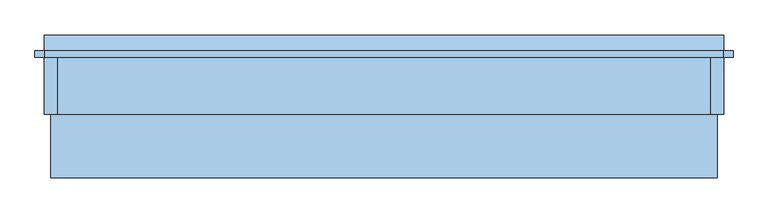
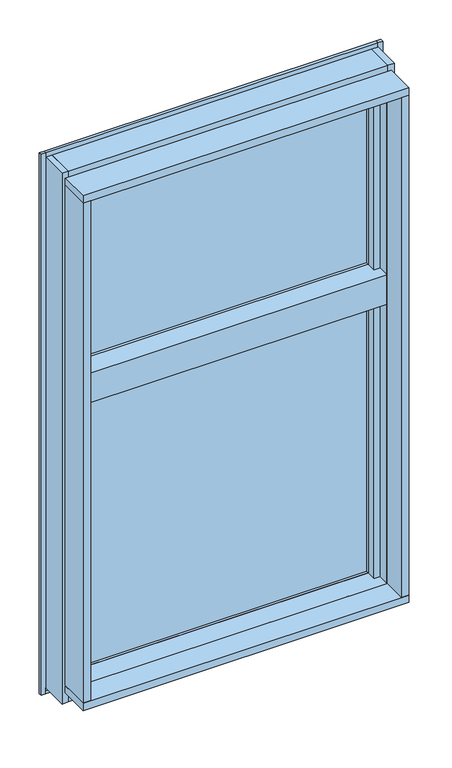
"""IFC4 building model written with IfcOpenShell, lengths in millimetres: window geometry, FNSⅡ100R_個別防火_ALC枠_段窓 : FIX/FIX 単."""

import ifcopenshell
import ifcopenshell.guid

model = None  # the IFC model being written
_history = None  # IfcOwnerHistory: only IFC2X3 demands one
_inside = {}  # id of a spatial element -> (the spatial element, [elements in it])
_under = {}  # id of a project, library or spatial element -> (it, [spatial elements below it])
_declared = {}  # id of a project -> (the project, [libraries it declares])
_typed = {}  # id of a type object -> (the type object, [elements of that type])
_made_of = {}  # id of a material, layer set ... -> (it, [elements and type objects made of it])


def new_model(schema):
    """Start an empty IFC model of exactly this schema.

    Asked for "IFC4X3", IfcOpenShell would pick the latest addendum, in which some entities
    have other attributes; the version numbers below select the first issue.
    IFC2X3 requires an IfcOwnerHistory on every rooted entity: one is made here for all.
    """
    global model, _history
    if schema == "IFC4X3":
        model = ifcopenshell.file(schema_version=(4, 3, 0, 0))
    else:
        model = ifcopenshell.file(schema=schema)
    _inside.clear()
    _under.clear()
    _declared.clear()
    _typed.clear()
    _made_of.clear()
    _history = None
    if model.schema == "IFC2X3":
        org = make("IfcOrganization", Name="unknown")
        user = make(
            "IfcPersonAndOrganization",
            ThePerson=make("IfcPerson", FamilyName="unknown"),
            TheOrganization=org,
        )
        app = make(
            "IfcApplication",
            ApplicationDeveloper=org,
            Version="unknown",
            ApplicationFullName="unknown",
            ApplicationIdentifier="unknown",
        )
        _history = make(
            "IfcOwnerHistory",
            OwningUser=user,
            OwningApplication=app,
            ChangeAction="ADDED",
            CreationDate=0,
        )
    return model


def make(cls, **values):
    """One entity of the class cls with the attributes given. An attribute that is None is left unset."""
    return model.create_entity(
        cls, **{name: value for name, value in values.items() if value is not None}
    )


def rooted(cls, **values):
    """An entity with a GlobalId (a new one), such as an element, a storey or a relation."""
    return make(cls, GlobalId=ifcopenshell.guid.new(), OwnerHistory=_history, **values)


def si_unit(unit_type, name, prefix=None):
    """IfcSIUnit, for example si_unit("LENGTHUNIT", "METRE", prefix="MILLI")."""
    return make("IfcSIUnit", UnitType=unit_type, Prefix=prefix, Name=name)


def assignment(units):
    """IfcUnitAssignment: the units of a project."""
    return None if units is None else make("IfcUnitAssignment", Units=units)


def point(xyz):
    """IfcCartesianPoint."""
    return None if xyz is None else make("IfcCartesianPoint", Coordinates=xyz)


def direction(xyz):
    """IfcDirection."""
    return None if xyz is None else make("IfcDirection", DirectionRatios=xyz)


def frame(location, z_axis=None, x_axis=None):
    """IfcAxis2Placement3D, a coordinate frame: its origin and axes. An axis left out is left unset."""
    return make(
        "IfcAxis2Placement3D",
        Location=point(location),
        Axis=direction(z_axis),
        RefDirection=direction(x_axis),
    )


def origin():
    """The frame at (0, 0, 0) with its axes left unset."""
    return frame((0.0, 0.0, 0.0))


def place(relative_to, where):
    """IfcLocalPlacement: puts the frame where relative to a parent placement (None: the world)."""
    return make(
        "IfcLocalPlacement", PlacementRelTo=relative_to, RelativePlacement=where
    )


def context(
    kind, dimensions, precision=None, world=None, true_north=None, identifier=None
):
    """IfcGeometricRepresentationContext, for example the 3D "Model" context."""
    return make(
        "IfcGeometricRepresentationContext",
        ContextIdentifier=identifier,
        ContextType=kind,
        CoordinateSpaceDimension=dimensions,
        Precision=precision,
        WorldCoordinateSystem=world,
        TrueNorth=true_north,
    )


def project(units=None, contexts=None):
    """IfcProject with its units and contexts."""
    return rooted(
        "IfcProject",
        Name="project",
        RepresentationContexts=contexts,
        UnitsInContext=assignment(units),
    )


def spatial(cls, under=None, at=None, **own):
    """A site, building, storey or space (cls), placed at a placement, below another one or the project."""
    s = rooted(cls, ObjectPlacement=at, **own)
    if under is not None:
        _under.setdefault(under.id(), (under, []))[1].append(s)
    return s


def polyline(points):
    """IfcPolyline through the points."""
    return make("IfcPolyline", Points=[point(p) for p in points])


def outline(outer, holes=None, kind="AREA"):
    """IfcArbitraryClosedProfileDef: a profile drawn as a closed curve; with holes, ...WithVoids."""
    if holes is None:
        return make("IfcArbitraryClosedProfileDef", ProfileType=kind, OuterCurve=outer)
    return make(
        "IfcArbitraryProfileDefWithVoids",
        ProfileType=kind,
        OuterCurve=outer,
        InnerCurves=holes,
    )


def extrude(swept, where, along, depth):
    """IfcExtrudedAreaSolid: the profile swept, set in the frame where, extruded along a direction by depth."""
    return make(
        "IfcExtrudedAreaSolid",
        SweptArea=swept,
        Position=where,
        ExtrudedDirection=direction(along),
        Depth=depth,
    )


def faces_of(points, faces, orient=None, outer=None):
    """IfcFace entities. A face is a list of loops; a loop is a list of indices into points, from 0.

    orient and outer hold one flag for each loop. By default every Orientation is true, the
    first loop of a face is its IfcFaceOuterBound and the others are IfcFaceBound.
    """
    made = []
    for i, loops in enumerate(faces):
        bounds = []
        for j, loop in enumerate(loops):
            is_outer = j == 0 if outer is None else outer[i][j]
            bounds.append(
                make(
                    "IfcFaceOuterBound" if is_outer else "IfcFaceBound",
                    Bound=make("IfcPolyLoop", Polygon=[points[k] for k in loop]),
                    Orientation=True if orient is None else orient[i][j],
                )
            )
        made.append(make("IfcFace", Bounds=bounds))
    return made


def faceted_brep(points, faces, orient=None, outer=None, voids=None):
    """IfcFacetedBrep: a solid bounded by flat faces; with voids (closed shells), ...WithVoids."""
    shared = [point(p) for p in points]
    hull = make("IfcClosedShell", CfsFaces=faces_of(shared, faces, orient, outer))
    if voids is None:
        return make("IfcFacetedBrep", Outer=hull)
    return make(
        "IfcFacetedBrepWithVoids",
        Outer=hull,
        Voids=[
            make(cls, CfsFaces=faces_of(shared, fs, o, b)) for cls, fs, o, b in voids
        ],
    )


def shape(context_of_items, identifier, shape_type, items):
    """IfcShapeRepresentation: the items that make up one representation, for example the "Body"."""
    return make(
        "IfcShapeRepresentation",
        ContextOfItems=context_of_items,
        RepresentationIdentifier=identifier,
        RepresentationType=shape_type,
        Items=items,
    )


def source(mapping_origin, context_of_items, identifier, shape_type, items):
    """IfcRepresentationMap: a shape defined once, which mapped items show again and again."""
    return make(
        "IfcRepresentationMap",
        MappingOrigin=mapping_origin,
        MappedRepresentation=shape(context_of_items, identifier, shape_type, items),
    )


def transform(
    local_origin,
    x_axis=None,
    y_axis=None,
    z_axis=None,
    scale=None,
    scale2=None,
    scale3=None,
    uniform=True,
):
    """IfcCartesianTransformationOperator3D, or its non-uniform kind. x_axis, y_axis, z_axis: its Axis1, 2, 3."""
    if uniform:
        return make(
            "IfcCartesianTransformationOperator3D",
            Axis1=direction(x_axis),
            Axis2=direction(y_axis),
            LocalOrigin=point(local_origin),
            Scale=scale,
            Axis3=direction(z_axis),
        )
    return make(
        "IfcCartesianTransformationOperator3DnonUniform",
        Axis1=direction(x_axis),
        Axis2=direction(y_axis),
        LocalOrigin=point(local_origin),
        Scale=scale,
        Axis3=direction(z_axis),
        Scale2=scale2,
        Scale3=scale3,
    )


def mapped(mapping_source, mapping_target):
    """IfcMappedItem: shows the shape of a source again, moved by a transform."""
    return make(
        "IfcMappedItem", MappingSource=mapping_source, MappingTarget=mapping_target
    )


def made_of(thing, what):
    """Note that an element or type object is made of a material, layer set ...; save() writes the relation."""
    if what is not None:
        _made_of.setdefault(what.id(), (what, []))[1].append(thing)
    return thing


def element(
    cls,
    number,
    at=None,
    inside=None,
    cuts=None,
    type_object=None,
    material=None,
    context=None,
    identifier="Body",
    shape_type=None,
    held_by="IfcProductDefinitionShape",
    body=None,
    shapes=None,
    **own,
):
    """One element of the class cls, such as IfcWall. Its Tag is "e" and its number.

    at: its placement. inside: the storey or other place that contains it. cuts: it is an
    opening in that element (IfcRelVoidsElement). A single representation is given by context,
    identifier, shape_type and body (its items); several are given by shapes. held_by: the class
    of the entity that holds the representations. save() writes the other relations.
    """
    e = rooted(cls, Tag="e%d" % number, ObjectPlacement=at, **own)
    if body is not None:
        shapes = [shape(context, identifier, shape_type, body)]
    if shapes is not None:
        e.Representation = make(held_by, Representations=shapes)
    if inside is not None:
        _inside.setdefault(inside.id(), (inside, []))[1].append(e)
    if cuts is not None:
        rooted(
            "IfcRelVoidsElement", RelatingBuildingElement=cuts, RelatedOpeningElement=e
        )
    if type_object is not None:
        _typed.setdefault(type_object.id(), (type_object, []))[1].append(e)
    return made_of(e, material)


def aggregate(whole, parts):
    """IfcRelAggregates: a whole, such as a stair, and the parts it consists of."""
    return rooted("IfcRelAggregates", RelatingObject=whole, RelatedObjects=parts)


def save(model, path):
    """Write the relations noted so far, then the file.

    IfcRelAggregates (storeys below a building ...), IfcRelContainedInSpatialStructure (elements
    in a storey), IfcRelDefinesByType, IfcRelAssociatesMaterial and IfcRelDeclares: one each for
    every whole, place, type object, material and project.
    """
    for whole, parts in _under.values():
        aggregate(whole, parts)
    for where, things in _inside.values():
        rooted(
            "IfcRelContainedInSpatialStructure",
            RelatedElements=things,
            RelatingStructure=where,
        )
    for kind, things in _typed.values():
        rooted("IfcRelDefinesByType", RelatedObjects=things, RelatingType=kind)
    for what, things in _made_of.values():
        rooted("IfcRelAssociatesMaterial", RelatedObjects=things, RelatingMaterial=what)
    for by, libraries in _declared.values():
        rooted("IfcRelDeclares", RelatingContext=by, RelatedDefinitions=libraries)
    model.write(path)


def window_000c6770(model_context):
    return source(origin(), model_context, "Body", "SolidModel", [
        extrude(outline(polyline([(-480.0, 55.6), (480.0, 55.6), (480.0, 49.6), (-480.0, 49.6), (-480.0, 55.6)])), frame((0.0, 0.0, 1950.0), z_axis=(0.0, 0.0, 1.0), x_axis=(1.0, 0.0, 0.0)), (0.0, 0.0, 1.0), 650.0),
        extrude(outline(polyline([(-480.0, 73.6), (480.0, 73.6), (480.0, 67.6), (-480.0, 67.6), (-480.0, 73.6)])), frame((0.0, 0.0, 1950.0), z_axis=(0.0, 0.0, 1.0), x_axis=(1.0, 0.0, 0.0)), (0.0, 0.0, 1.0), 650.0),
        extrude(outline(polyline([(-480.0, 55.6), (480.0, 55.6), (480.0, 49.6), (-480.0, 49.6), (-480.0, 55.6)])), frame((0.0, 0.0, 900.0), z_axis=(0.0, 0.0, 1.0), x_axis=(1.0, 0.0, 0.0)), (0.0, 0.0, 1.0), 950.0),
        extrude(outline(polyline([(-480.0, 73.6), (480.0, 73.6), (480.0, 67.6), (-480.0, 67.6), (-480.0, 73.6)])), frame((0.0, 0.0, 900.0), z_axis=(0.0, 0.0, 1.0), x_axis=(1.0, 0.0, 0.0)), (0.0, 0.0, 1.0), 950.0),
        faceted_brep([(-535.0, 90.0, 840.0), (-515.0, 90.0, 840.0), (-515.0, -10.0, 840.0), (-535.0, -10.0, 840.0), (-535.0, 90.0, 2645.0), (-515.0, 90.0, 2645.0), (-515.0, 90.0, 2600.0), (-480.0, 90.0, 2600.0), (-480.0, 90.0, 900.0), (-515.0, 90.0, 900.0), (-515.0, -10.0, 2645.0), (-515.0, 40.0, 900.0), (-515.0, 40.0, 2600.0), (-535.0, -10.0, 2645.0), (-480.0, 40.0, 900.0), (-480.0, 40.0, 2600.0)], [[[0, 1, 2, 3]], [[4, 5, 6, 7, 8, 9, 1, 0]], [[5, 10, 2, 1, 9, 11, 12, 6]], [[10, 13, 3, 2]], [[13, 4, 0, 3]], [[8, 14, 11, 9]], [[15, 12, 11, 14]], [[7, 15, 14, 8]], [[4, 13, 10, 5]], [[7, 6, 12, 15]]]),
        faceted_brep([(535.0, 90.0, 840.0), (535.0, -10.0, 840.0), (515.0, -10.0, 840.0), (515.0, 90.0, 840.0), (535.0, 90.0, 2645.0), (535.0, -10.0, 2645.0), (515.0, -10.0, 2645.0), (515.0, 90.0, 2645.0), (515.0, 90.0, 2600.0), (515.0, 40.0, 2600.0), (515.0, 40.0, 900.0), (515.0, 90.0, 900.0), (480.0, 90.0, 900.0), (480.0, 90.0, 2600.0), (480.0, 40.0, 900.0), (480.0, 40.0, 2600.0)], [[[0, 1, 2, 3]], [[4, 5, 1, 0]], [[5, 6, 2, 1]], [[6, 7, 8, 9, 10, 11, 3, 2]], [[7, 4, 0, 3, 11, 12, 13, 8]], [[10, 14, 12, 11]], [[15, 13, 12, 14]], [[9, 15, 14, 10]], [[4, 7, 6, 5]], [[8, 13, 15, 9]]]),
        extrude(outline(polyline([(500.0, -30.0), (500.0, 8.5), (480.0, 8.5), (480.0, 40.0), (515.0, 40.0), (515.0, -10.0), (503.0, -10.0), (503.0, -30.0), (500.0, -30.0)])), frame((0.0, 0.0, 900.0), z_axis=(0.0, 0.0, 1.0), x_axis=(1.0, 0.0, 0.0)), (0.0, 0.0, 1.0), 1700.0),
        extrude(outline(polyline([(-515.0, -10.0), (-515.0, 40.0), (-480.0, 40.0), (-480.0, 8.5), (-500.0, 8.5), (-500.0, -30.0), (-503.0, -30.0), (-503.0, -10.0), (-515.0, -10.0)])), frame((0.0, 0.0, 900.0), z_axis=(0.0, 0.0, 1.0), x_axis=(1.0, 0.0, 0.0)), (0.0, 0.0, 1.0), 1700.0),
        extrude(outline(polyline([(-10.0, 884.0), (-10.0, 897.0), (-30.0, 897.0), (-30.0, 900.0), (40.0, 900.0), (40.0, 884.0), (-10.0, 884.0)])), frame((-503.0, 0.0, 0.0), z_axis=(1.0, 0.0, 0.0), x_axis=(0.0, 1.0, 0.0)), (0.0, 0.0, 1.0), 1006.0),
        extrude(outline(polyline([(90.0, 840.0), (-10.0, 840.0), (-10.0, 884.0), (40.0, 884.0), (40.0, 900.0), (90.0, 900.0), (90.0, 870.0), (71.0, 870.0), (71.0, 850.0), (90.0, 850.0), (90.0, 840.0)])), frame((-515.0, 0.0, 0.0), z_axis=(1.0, 0.0, 0.0), x_axis=(0.0, 1.0, 0.0)), (0.0, 0.0, 1.0), 1030.0),
        extrude(outline(polyline([(40.0, 1936.0), (-10.0, 1936.0), (-10.0, 1865.0), (40.0, 1865.0), (40.0, 1850.0), (-30.0, 1850.0), (-30.0, 1950.0), (40.0, 1950.0), (40.0, 1936.0)])), frame((-500.0, 0.0, 0.0), z_axis=(1.0, 0.0, 0.0), x_axis=(0.0, 1.0, 0.0)), (0.0, 0.0, 1.0), 1000.0),
        extrude(outline(polyline([(90.0, 1850.0), (40.0, 1850.0), (40.0, 1865.0), (-10.0, 1865.0), (-10.0, 1936.0), (40.0, 1936.0), (40.0, 1950.0), (90.0, 1950.0), (90.0, 1920.0), (71.0, 1920.0), (71.0, 1904.0), (80.5, 1900.0), (90.0, 1900.0), (90.0, 1850.0)])), frame((-480.0, 0.0, 0.0), z_axis=(1.0, 0.0, 0.0), x_axis=(0.0, 1.0, 0.0)), (0.0, 0.0, 1.0), 960.0),
        extrude(outline(polyline([(40.0, 2600.0), (-30.0, 2600.0), (-30.0, 2603.0), (-10.0, 2603.0), (-10.0, 2615.0), (40.0, 2615.0), (40.0, 2600.0)])), frame((-503.0, 0.0, 0.0), z_axis=(1.0, 0.0, 0.0), x_axis=(0.0, 1.0, 0.0)), (0.0, 0.0, 1.0), 1006.0),
        extrude(outline(polyline([(90.0, 2600.0), (40.0, 2600.0), (40.0, 2615.0), (-10.0, 2615.0), (-10.0, 2645.0), (90.0, 2645.0), (90.0, 2600.0)])), frame((-515.0, 0.0, 0.0), z_axis=(1.0, 0.0, 0.0), x_axis=(0.0, 1.0, 0.0)), (0.0, 0.0, 1.0), 1030.0),
        extrude(outline(polyline([(-110.0, 900.0), (-30.0, 900.0), (-30.0, 897.0), (-10.0, 897.0), (-10.0, 875.0), (-110.0, 875.0), (-110.0, 900.0)])), frame((-525.0, 0.0, 0.0), z_axis=(1.0, 0.0, 0.0), x_axis=(0.0, 1.0, 0.0)), (0.0, 0.0, 1.0), 1050.0),
        extrude(outline(polyline([(-535.0, 80.0), (-535.0, 90.0), (535.0, 90.0), (535.0, 80.0), (-535.0, 80.0)])), frame((0.0, 0.0, 830.0), z_axis=(0.0, 0.0, 1.0), x_axis=(1.0, 0.0, 0.0)), (0.0, 0.0, 1.0), 10.0),
        extrude(outline(polyline([(100.0, 807.0), (100.0, 820.0), (80.0, 820.0), (80.0, 830.0), (90.0, 830.0), (115.0, 825.0), (115.0, 807.0), (100.0, 807.0)])), frame((-535.0, 0.0, 0.0), z_axis=(1.0, 0.0, 0.0), x_axis=(0.0, 1.0, 0.0)), (0.0, 0.0, 1.0), 1070.0),
        extrude(outline(polyline([(525.0, -10.0), (525.0, -110.0), (500.0, -110.0), (500.0, -30.0), (503.0, -30.0), (503.0, -10.0), (525.0, -10.0)])), frame((0.0, 0.0, 900.0), z_axis=(0.0, 0.0, 1.0), x_axis=(1.0, 0.0, 0.0)), (0.0, 0.0, 1.0), 1700.0),
        extrude(outline(polyline([(-503.0, -10.0), (-503.0, -30.0), (-500.0, -30.0), (-500.0, -110.0), (-525.0, -110.0), (-525.0, -10.0), (-503.0, -10.0)])), frame((0.0, 0.0, 900.0), z_axis=(0.0, 0.0, 1.0), x_axis=(1.0, 0.0, 0.0)), (0.0, 0.0, 1.0), 1700.0),
        extrude(outline(polyline([(-550.0, 90.0), (-535.0, 90.0), (-535.0, 80.0), (-550.0, 80.0), (-550.0, 90.0)])), frame((0.0, 0.0, 820.0), z_axis=(0.0, 0.0, 1.0), x_axis=(1.0, 0.0, 0.0)), (0.0, 0.0, 1.0), 1840.0),
        extrude(outline(polyline([(550.0, 90.0), (550.0, 80.0), (535.0, 80.0), (535.0, 90.0), (550.0, 90.0)])), frame((0.0, 0.0, 820.0), z_axis=(0.0, 0.0, 1.0), x_axis=(1.0, 0.0, 0.0)), (0.0, 0.0, 1.0), 1840.0),
        extrude(outline(polyline([(-110.0, 2625.0), (-10.0, 2625.0), (-10.0, 2603.0), (-30.0, 2603.0), (-30.0, 2600.0), (-110.0, 2600.0), (-110.0, 2625.0)])), frame((-525.0, 0.0, 0.0), z_axis=(1.0, 0.0, 0.0), x_axis=(0.0, 1.0, 0.0)), (0.0, 0.0, 1.0), 1050.0),
        extrude(outline(polyline([(-535.0, 80.0), (-535.0, 90.0), (535.0, 90.0), (535.0, 80.0), (-535.0, 80.0)])), frame((0.0, 0.0, 2645.0), z_axis=(0.0, 0.0, 1.0), x_axis=(1.0, 0.0, 0.0)), (0.0, 0.0, 1.0), 15.0),
    ])


if __name__ == "__main__":
    model = new_model("IFC4")
    model_context = context("Model", 3, world=origin())
    ifc_project = project(units=[si_unit("LENGTHUNIT", "METRE", prefix="MILLI")], contexts=[model_context])
    site = spatial("IfcSite", under=ifc_project)
    building = spatial("IfcBuilding", under=site)
    placement = place(None, origin())
    window_shape = window_000c6770(model_context)
    element("IfcWindow", 1, ObjectType="FNSⅡ100R_個別防火_ALC枠_段窓 : FIX/FIX 単", at=placement, inside=building, context=model_context, shape_type="MappedRepresentation", body=[
        mapped(window_shape, transform((0.0, 0.0, 0.0), x_axis=(1.0, 0.0, 0.0), y_axis=(0.0, 1.0, 0.0), z_axis=(0.0, 0.0, 1.0))),
    ])
    save(model, "model.ifc")
